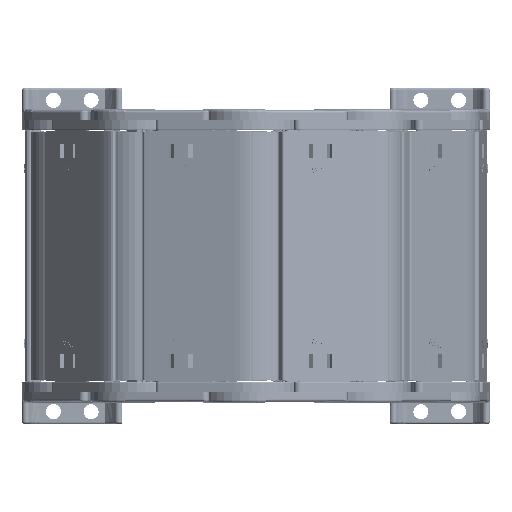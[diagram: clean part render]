
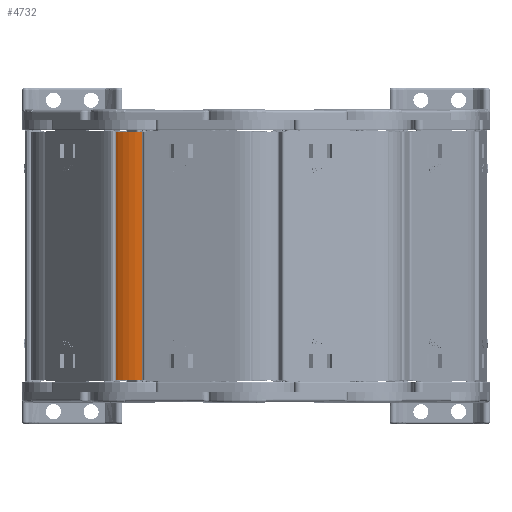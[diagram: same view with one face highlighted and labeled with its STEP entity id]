
A CAD part, left-side view. The second image highlights one B-rep face of the part: STEP entity #4732.
In plain terms, the highlighted cylindrical face has radius 17.3 mm (diameter 34.6 mm), a partial arc.
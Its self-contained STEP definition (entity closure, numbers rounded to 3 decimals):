
#2070 = CARTESIAN_POINT ( 'NONE',  ( 17.932, 16.314, 28.5 ) ) ;
#4732 = ADVANCED_FACE ( 'NONE', ( #25571 ), #34561, .T. ) ;
#5885 = LINE ( 'NONE', #49073, #35302 ) ;
#8714 = AXIS2_PLACEMENT_3D ( 'NONE', #19191, #42306, #34503 ) ;
#9449 = VERTEX_POINT ( 'NONE', #21465 ) ;
#11189 = VERTEX_POINT ( 'NONE', #22649 ) ;
#12415 = EDGE_CURVE ( 'NONE', #44823, #11189, #31186, .T. ) ;
#14142 = DIRECTION ( 'NONE',  ( 0., 0., 1. ) ) ;
#17826 = CARTESIAN_POINT ( 'NONE',  ( 23.607, -0.029, 90.05 ) ) ;
#17954 = AXIS2_PLACEMENT_3D ( 'NONE', #17826, #44791, #21697 ) ;
#19191 = CARTESIAN_POINT ( 'NONE',  ( 23.607, -0.029, 28.5 ) ) ;
#21194 = DIRECTION ( 'NONE',  ( 0., 0., 1. ) ) ;
#21465 = CARTESIAN_POINT ( 'NONE',  ( 32.559, 14.775, 90.05 ) ) ;
#21697 = DIRECTION ( 'NONE',  ( -1., 0., 0. ) ) ;
#22649 = CARTESIAN_POINT ( 'NONE',  ( 17.932, 16.314, 90.05 ) ) ;
#23644 = CIRCLE ( 'NONE', #17954, 17.3 ) ;
#25228 = AXIS2_PLACEMENT_3D ( 'NONE', #44309, #21194, #48143 ) ;
#25571 = FACE_OUTER_BOUND ( 'NONE', #48581, .T. ) ;
#26076 = DIRECTION ( 'NONE',  ( 0., 0., -1. ) ) ;
#27544 = ORIENTED_EDGE ( 'NONE', *, *, #40962, .T. ) ;
#28084 = EDGE_CURVE ( 'NONE', #11189, #9449, #23644, .T. ) ;
#29895 = ORIENTED_EDGE ( 'NONE', *, *, #28084, .T. ) ;
#31186 = LINE ( 'NONE', #2070, #41493 ) ;
#31660 = CARTESIAN_POINT ( 'NONE',  ( 32.559, 14.775, -9.05 ) ) ;
#34503 = DIRECTION ( 'NONE',  ( -1., 0., 0. ) ) ;
#34561 = CYLINDRICAL_SURFACE ( 'NONE', #8714, 17.3 ) ;
#35302 = VECTOR ( 'NONE', #26076, 1000. ) ;
#35899 = EDGE_CURVE ( 'NONE', #9449, #42799, #5885, .T. ) ;
#40962 = EDGE_CURVE ( 'NONE', #42799, #44823, #49276, .T. ) ;
#41493 = VECTOR ( 'NONE', #14142, 1000. ) ;
#42306 = DIRECTION ( 'NONE',  ( 0., 0., -1. ) ) ;
#42799 = VERTEX_POINT ( 'NONE', #31660 ) ;
#44298 = CARTESIAN_POINT ( 'NONE',  ( 17.932, 16.314, -9.05 ) ) ;
#44309 = CARTESIAN_POINT ( 'NONE',  ( 23.607, -0.029, -9.05 ) ) ;
#44791 = DIRECTION ( 'NONE',  ( 0., 0., -1. ) ) ;
#44823 = VERTEX_POINT ( 'NONE', #44298 ) ;
#45248 = ORIENTED_EDGE ( 'NONE', *, *, #12415, .T. ) ;
#45564 = ORIENTED_EDGE ( 'NONE', *, *, #35899, .T. ) ;
#48143 = DIRECTION ( 'NONE',  ( 1., 0., 0. ) ) ;
#48581 = EDGE_LOOP ( 'NONE', ( #45248, #29895, #45564, #27544 ) ) ;
#49073 = CARTESIAN_POINT ( 'NONE',  ( 32.559, 14.775, 28.5 ) ) ;
#49276 = CIRCLE ( 'NONE', #25228, 17.3 ) ;
